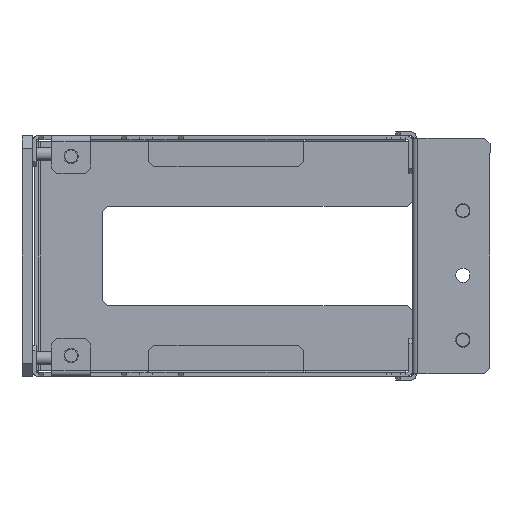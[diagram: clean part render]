
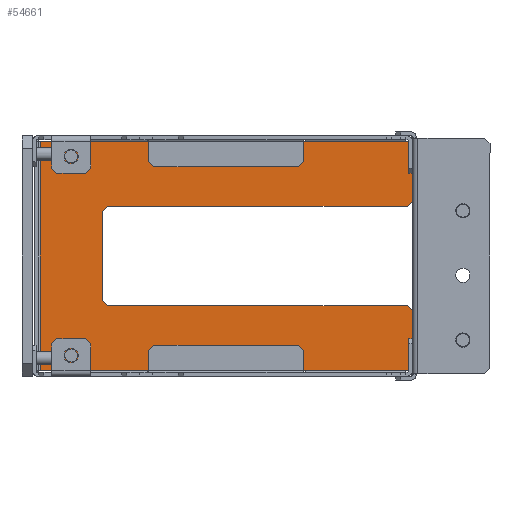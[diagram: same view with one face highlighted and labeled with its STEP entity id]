
A CAD part, left-side view. The second image highlights one B-rep face of the part: STEP entity #54661.
In plain terms, the highlighted planar face has unit normal (-1, 0, 0) as drawn and (0, 0, -1) by its records, which use the part's own axes.
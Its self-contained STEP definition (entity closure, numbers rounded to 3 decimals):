
#53631=CARTESIAN_POINT(' ',(-73.9,44.25,-1.5));
#53636=DIRECTION(' ',(0.,-1.,0.));
#53641=VECTOR(' ',#53636,1.);
#53646=LINE('',#53631,#53641);
#53651=CARTESIAN_POINT(' ',(-73.9,44.25,-1.5));
#53652=VERTEX_POINT(' ',#53651);
#53656=CARTESIAN_POINT(' ',(-73.9,-44.25,-1.5));
#53657=VERTEX_POINT(' ',#53656);
#53661=EDGE_CURVE(' ',#53652,#53657,#53646,.T.);
#54171=DIRECTION(' ',(0.,0.,-1.));
#54176=CARTESIAN_POINT(' ',(70.,-44.25,-1.5));
#54181=DIRECTION(' ',(-1.,0.,-0.));
#54186=AXIS2_PLACEMENT_3D(' ',#54176,#54171,#54181);
#54191=PLANE('NONE',#54186);
#54196=CARTESIAN_POINT(' ',(70.,21.25,-1.5));
#54201=DIRECTION(' ',(-0.707,-0.707,0.));
#54206=VECTOR(' ',#54201,1.);
#54211=LINE('',#54196,#54206);
#54216=CARTESIAN_POINT(' ',(70.,21.25,-1.5));
#54217=VERTEX_POINT(' ',#54216);
#54221=CARTESIAN_POINT(' ',(68.,19.25,-1.5));
#54222=VERTEX_POINT(' ',#54221);
#54226=EDGE_CURVE(' ',#54217,#54222,#54211,.T.);
#54231=ORIENTED_EDGE(' ',*,*,#54226,.T.);
#54236=CARTESIAN_POINT(' ',(-48.,19.25,-1.5));
#54241=DIRECTION(' ',(1.,0.,0.));
#54246=VECTOR(' ',#54241,1.);
#54251=LINE('',#54236,#54246);
#54256=CARTESIAN_POINT(' ',(-48.,19.25,-1.5));
#54257=VERTEX_POINT(' ',#54256);
#54261=EDGE_CURVE(' ',#54257,#54222,#54251,.T.);
#54266=ORIENTED_EDGE(' ',*,*,#54261,.F.);
#54271=CARTESIAN_POINT(' ',(-50.,17.25,-1.5));
#54276=DIRECTION(' ',(0.707,0.707,0.));
#54281=VECTOR(' ',#54276,1.);
#54286=LINE('',#54271,#54281);
#54291=CARTESIAN_POINT(' ',(-50.,17.25,-1.5));
#54292=VERTEX_POINT(' ',#54291);
#54296=EDGE_CURVE(' ',#54292,#54257,#54286,.T.);
#54301=ORIENTED_EDGE(' ',*,*,#54296,.F.);
#54306=CARTESIAN_POINT(' ',(-50.,-17.25,-1.5));
#54311=DIRECTION(' ',(0.,1.,0.));
#54316=VECTOR(' ',#54311,1.);
#54321=LINE('',#54306,#54316);
#54326=CARTESIAN_POINT(' ',(-50.,-17.25,-1.5));
#54327=VERTEX_POINT(' ',#54326);
#54331=EDGE_CURVE(' ',#54327,#54292,#54321,.T.);
#54336=ORIENTED_EDGE(' ',*,*,#54331,.F.);
#54341=CARTESIAN_POINT(' ',(-48.,-19.25,-1.5));
#54346=DIRECTION(' ',(-0.707,0.707,0.));
#54351=VECTOR(' ',#54346,1.);
#54356=LINE('',#54341,#54351);
#54361=CARTESIAN_POINT(' ',(-48.,-19.25,-1.5));
#54362=VERTEX_POINT(' ',#54361);
#54366=EDGE_CURVE(' ',#54362,#54327,#54356,.T.);
#54371=ORIENTED_EDGE(' ',*,*,#54366,.F.);
#54376=CARTESIAN_POINT(' ',(68.,-19.25,-1.5));
#54381=DIRECTION(' ',(-1.,0.,0.));
#54386=VECTOR(' ',#54381,1.);
#54391=LINE('',#54376,#54386);
#54396=CARTESIAN_POINT(' ',(68.,-19.25,-1.5));
#54397=VERTEX_POINT(' ',#54396);
#54401=EDGE_CURVE(' ',#54397,#54362,#54391,.T.);
#54406=ORIENTED_EDGE(' ',*,*,#54401,.F.);
#54411=CARTESIAN_POINT(' ',(68.,-19.25,-1.5));
#54416=DIRECTION(' ',(0.707,-0.707,0.));
#54421=VECTOR(' ',#54416,1.);
#54426=LINE('',#54411,#54421);
#54431=CARTESIAN_POINT(' ',(70.,-21.25,-1.5));
#54432=VERTEX_POINT(' ',#54431);
#54436=EDGE_CURVE(' ',#54397,#54432,#54426,.T.);
#54441=ORIENTED_EDGE(' ',*,*,#54436,.T.);
#54446=CARTESIAN_POINT(' ',(70.,-42.25,-1.5));
#54451=DIRECTION(' ',(0.,1.,0.));
#54456=VECTOR(' ',#54451,1.);
#54461=LINE('',#54446,#54456);
#54466=CARTESIAN_POINT(' ',(70.,-42.25,-1.5));
#54467=VERTEX_POINT(' ',#54466);
#54471=EDGE_CURVE(' ',#54467,#54432,#54461,.T.);
#54476=ORIENTED_EDGE(' ',*,*,#54471,.F.);
#54481=CARTESIAN_POINT(' ',(70.,-42.25,-1.5));
#54486=DIRECTION(' ',(-0.707,-0.707,0.));
#54491=VECTOR(' ',#54486,1.);
#54496=LINE('',#54481,#54491);
#54501=CARTESIAN_POINT(' ',(68.,-44.25,-1.5));
#54502=VERTEX_POINT(' ',#54501);
#54506=EDGE_CURVE(' ',#54467,#54502,#54496,.T.);
#54511=ORIENTED_EDGE(' ',*,*,#54506,.T.);
#54516=CARTESIAN_POINT(' ',(-73.9,-44.25,-1.5));
#54521=DIRECTION(' ',(1.,0.,0.));
#54526=VECTOR(' ',#54521,1.);
#54531=LINE('',#54516,#54526);
#54536=EDGE_CURVE(' ',#53657,#54502,#54531,.T.);
#54541=ORIENTED_EDGE(' ',*,*,#54536,.F.);
#54546=ORIENTED_EDGE(' ',*,*,#53661,.F.);
#54551=CARTESIAN_POINT(' ',(68.,44.25,-1.5));
#54556=DIRECTION(' ',(-1.,0.,0.));
#54561=VECTOR(' ',#54556,1.);
#54566=LINE('',#54551,#54561);
#54571=CARTESIAN_POINT(' ',(68.,44.25,-1.5));
#54572=VERTEX_POINT(' ',#54571);
#54576=EDGE_CURVE(' ',#54572,#53652,#54566,.T.);
#54581=ORIENTED_EDGE(' ',*,*,#54576,.F.);
#54586=CARTESIAN_POINT(' ',(68.,44.25,-1.5));
#54591=DIRECTION(' ',(0.707,-0.707,0.));
#54596=VECTOR(' ',#54591,1.);
#54601=LINE('',#54586,#54596);
#54606=CARTESIAN_POINT(' ',(70.,42.25,-1.5));
#54607=VERTEX_POINT(' ',#54606);
#54611=EDGE_CURVE(' ',#54572,#54607,#54601,.T.);
#54616=ORIENTED_EDGE(' ',*,*,#54611,.T.);
#54621=CARTESIAN_POINT(' ',(70.,21.25,-1.5));
#54626=DIRECTION(' ',(0.,1.,0.));
#54631=VECTOR(' ',#54626,1.);
#54636=LINE('',#54621,#54631);
#54641=EDGE_CURVE(' ',#54217,#54607,#54636,.T.);
#54646=ORIENTED_EDGE(' ',*,*,#54641,.F.);
#54651=EDGE_LOOP(' ',(#54231,#54266,#54301,#54336,#54371,#54406,#54441,#54476,#54511,#54541,#54546,#54581,#54616,#54646));
#54656=FACE_OUTER_BOUND(' ',#54651,.T.);
#54661=ADVANCED_FACE('NONE',(#54656),#54191,.T.);
